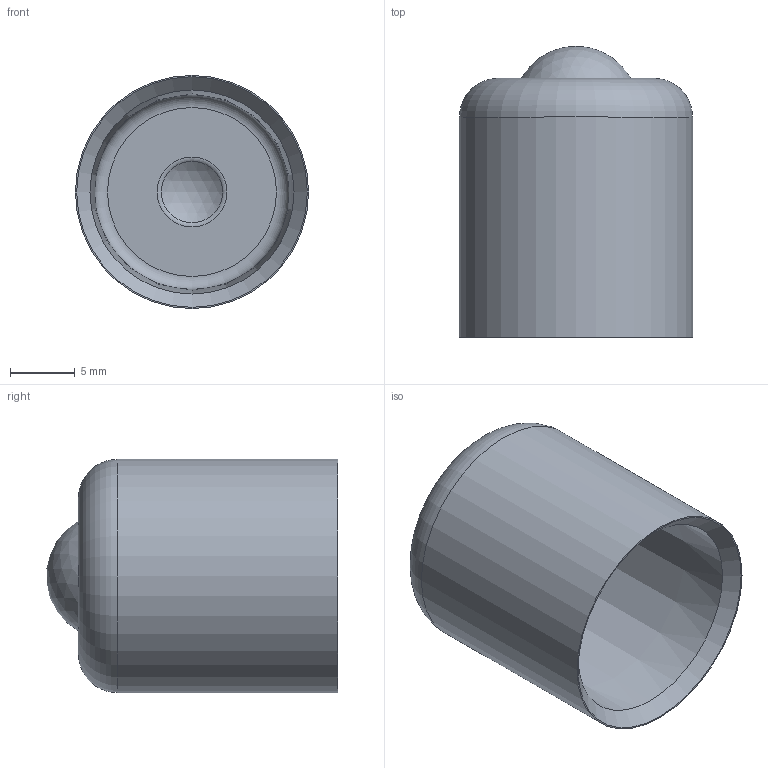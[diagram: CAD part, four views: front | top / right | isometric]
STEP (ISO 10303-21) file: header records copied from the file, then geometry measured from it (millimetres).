
FILE_DESCRIPTION(/* description */ (''),/* implementation_level */ '2;1');
FILE_NAME(/* name */ '\\NAS\db20\PR25-16\DR_PR25-16.stp',/* time_stamp */ '2017-09-22T10:50:06+09:00',/* author */ ('user'),/* organization */ (''),/* preprocessor_version */ 'ST-DEVELOPER v15.6',/* originating_system */ 'Autodesk Inventor 2015',/* authorisation */ '');
FILE_SCHEMA (('AUTOMOTIVE_DESIGN { 1 0 10303 214 3 1 1 }'));
Length unit declared in the file: millimetre
Products named in the file (1): DR_PR25-16
Bounding box: 18 x 22.47 x 18 mm (x, y, z)
Volume: 1687 mm3; surface area: 2390.7 mm2
Topology: 1 solids, 1 shells, 11 faces, 16 edges, 10 vertices
Faces by surface type: plane 3, torus 3, cone 2, sphere 2, cylinder 1
Full cylindrical faces by diameter (mm): 18 x1
Entity records: 238 total; most frequent: DIRECTION 44, CARTESIAN_POINT 32, AXIS2_PLACEMENT_3D 22, EDGE_LOOP 20, ORIENTED_EDGE 20, FACE_OUTER_BOUND 11, ADVANCED_FACE 11, CIRCLE 10
